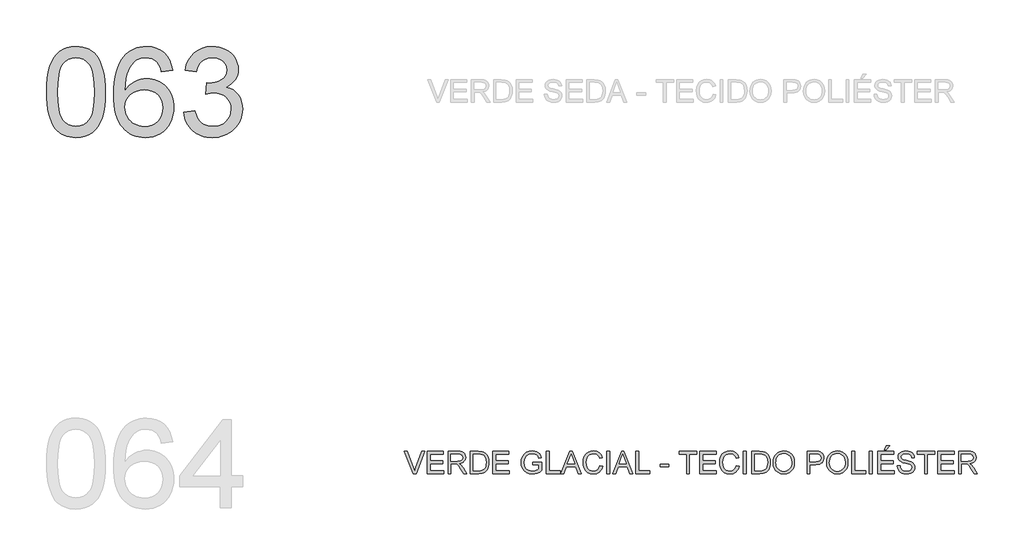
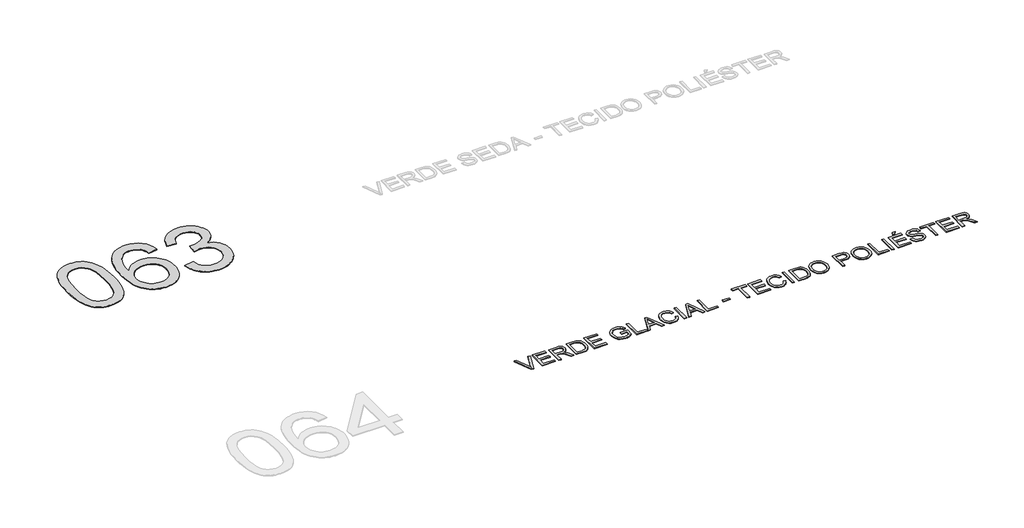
# One storey, part 13 of 39: 2 proxies.
"""IFC4 building model written with IfcOpenShell, lengths in millimetres."""

from ifc_helpers import new_model, si_unit, origin, origin_with_axes, place, context, project, spatial, polyline, outline, extrude, element, save

model = new_model("IFC4")

# Units and contexts
model_context = context("Model", 3, world=origin())
ifc_project = project(units=[si_unit("LENGTHUNIT", "METRE", prefix="MILLI")], contexts=[model_context])

# Site, building, storey
site = spatial("IfcSite", under=ifc_project)
building = spatial("IfcBuilding", under=site)
storey = spatial("IfcBuildingStorey", under=building, Name="Marelli - Linha PROFIT - Planta Baixa", Elevation=0.0)

# Proxies
placement = place(None, origin())
element("IfcBuildingElementProxy", 1, Name="1200mm Arial", ObjectType="1200mm Arial", at=placement, inside=storey, context=model_context, shape_type="SweptSolid", body=[
    extrude(outline(polyline([(-25275.30917, -89395.792664), (-25272.540858, -89294.4319773), (-25264.2359219, -89202.8385576), (-25250.3943618, -89121.0124048), (-25231.0161777, -89048.953519), (-25206.1841431, -88986.073289), (-25175.9810313, -88931.7831035), (-25140.4068423, -88886.0829627), (-25099.4615763, -88848.9728664), (-25053.0072773, -88820.2596767), (-25000.9059898, -88799.7502555), (-24943.1577136, -88787.4446027), (-24879.7624488, -88783.3427185), (-24832.1217304, -88785.7707396), (-24786.9090332, -88793.0548031), (-24744.1243571, -88805.194909), (-24703.7677023, -88822.1910572), (-24666.8139558, -88843.7581391), (-24634.2380052, -88869.6110463), (-24606.0398502, -88899.7497788), (-24582.2194911, -88934.1743365), (-24561.5813111, -88972.7467637), (-24542.929694, -89015.3291046), (-24511.586148, -89112.5235278), (-24499.611589, -89169.6831928), (-24491.0583327, -89235.9479371), (-24485.9263788, -89311.3177609), (-24484.2157275, -89395.792664), (-24486.9564484, -89496.5095573), (-24495.178611, -89587.6431245), (-24508.8822153, -89669.1933658), (-24528.0672614, -89741.1602811), (-24552.706158, -89804.0681023), (-24582.771314, -89858.4410612), (-24618.2627295, -89904.2791578), (-24659.1804044, -89941.5823921), (-24705.6898857, -89970.4887199), (-24757.9567202, -89991.1360968), (-24815.9809078, -90003.524523), (-24879.7624488, -90007.6539984), (-24922.4367602, -90005.8605737), (-24962.7566269, -90000.4802995), (-25000.7220488, -89991.5131759), (-25036.3330259, -89978.9592028), (-25069.5895583, -89962.8183803), (-25100.4916459, -89943.0907083), (-25129.0392887, -89919.7761868), (-25155.2324867, -89892.8748159), (-25183.3754594, -89850.2786794), (-25207.7660357, -89802.0999336), (-25228.4042156, -89748.3385785), (-25245.2899992, -89688.9946142), (-25258.4233864, -89624.0680406), (-25267.8043773, -89553.5588577), (-25273.4329718, -89477.4670655), (-25275.30917, -89395.792664)]), holes=[polyline([(-25124.6247047, -89395.4983584), (-25120.2101208, -89526.4919399), (-25106.966369, -89632.5247279), (-25097.0335551, -89676.1808245), (-25084.8934493, -89713.5967226), (-25070.5460515, -89744.7724225), (-25053.9913617, -89769.7079239), (-25016.614551, -89807.884878), (-24975.1174619, -89835.1541309), (-24929.5000945, -89851.5156826), (-24879.7624488, -89856.9695332), (-24830.024803, -89851.4972885), (-24784.4074356, -89835.0805545), (-24742.9103465, -89807.7193311), (-24705.5335358, -89769.4136183), (-24688.9788461, -89744.418336), (-24674.6314482, -89713.2104465), (-24662.4913424, -89675.7899498), (-24652.5585285, -89632.1568459), (-24639.3147767, -89526.2528166), (-24634.9001928, -89395.4983584), (-24639.1676239, -89267.9720648), (-24651.9699173, -89163.8062779), (-24661.5716374, -89120.4835744), (-24673.3070731, -89083.0009976), (-24687.1762243, -89051.3585475), (-24703.1790911, -89025.5562241), (-24739.9305024, -88985.5122689), (-24781.905838, -88956.9094438), (-24829.105098, -88939.7477487), (-24881.5282823, -88934.0271837), (-24931.0084107, -88939.067167), (-24975.8532259, -88954.187117), (-25016.062728, -88979.3870337), (-25051.6369169, -89014.666917), (-25068.7434297, -89043.2145599), (-25083.5690741, -89077.2068562), (-25096.1138501, -89116.6438061), (-25106.3777578, -89161.5254095), (-25120.062968, -89267.6225769), (-25124.6247047, -89395.4983584)])]), origin_with_axes(), (0.0, 0.0, 1.0), 10.0),
    extrude(outline(polyline([(-23580.1089362, -89103.5472071), (-23730.7934014, -89122.3827652), (-23741.8666495, -89082.0812927), (-23755.0736131, -89047.7027202), (-23770.4142923, -89019.2470479), (-23787.8886871, -88996.7142757), (-23820.2806967, -88969.2886729), (-23856.2411618, -88949.6989567), (-23895.7700822, -88937.9451269), (-23938.8674579, -88934.0271837), (-23974.4048586, -88936.3080521), (-24008.9121898, -88943.1506572), (-24042.3894513, -88954.554999), (-24074.8366433, -88970.5210776), (-24104.4419469, -88996.6315022), (-24131.4536824, -89028.1681863), (-24155.8718498, -89065.1311297), (-24177.6964492, -89107.5203326), (-24195.7686522, -89158.1316981), (-24208.9296306, -89219.7611293), (-24217.1793843, -89292.4086263), (-24220.5179134, -89376.0741891), (-24191.7955266, -89338.2099347), (-24160.0749016, -89305.5512106), (-24125.3560383, -89278.0980167), (-24087.6389367, -89255.8503531), (-24047.9352724, -89238.6610669), (-24007.2567208, -89226.3830053), (-23965.6032819, -89219.0161683), (-23922.9749557, -89216.560556), (-23886.0763916, -89218.2390176), (-23850.575779, -89223.2744024), (-23816.4731181, -89231.6667104), (-23783.7684087, -89243.4159416), (-23752.4616509, -89258.5220961), (-23722.5528447, -89276.9851737), (-23694.0419901, -89298.8051745), (-23666.9290871, -89323.9820986), (-23642.1660303, -89351.81697), (-23620.7047144, -89381.6108131), (-23602.5451394, -89413.3636278), (-23587.6873053, -89447.0754142), (-23576.1312121, -89482.7461721), (-23567.8768599, -89520.3759017), (-23562.9242485, -89559.9646029), (-23561.273378, -89601.5122757), (-23564.3819809, -89656.4462547), (-23573.7077895, -89709.4120649), (-23589.2508038, -89760.4097065), (-23611.0110238, -89809.4391794), (-23638.2158973, -89854.6702707), (-23670.0928722, -89894.2727675), (-23706.6419484, -89928.2466698), (-23747.863126, -89956.5919775), (-23792.8734881, -89978.9316116), (-23840.790118, -89994.8884932), (-23891.6130156, -90004.4626221), (-23945.342181, -90007.6539984), (-23991.3435252, -90005.5386769), (-24035.1697672, -89999.1927125), (-24076.8209068, -89988.6161052), (-24116.2969442, -89973.8088549), (-24153.5978792, -89954.7709616), (-24188.723712, -89931.5024254), (-24221.6744424, -89904.0032463), (-24252.4500706, -89872.2734242), (-24280.2826428, -89835.6875598), (-24304.4042053, -89793.6202536), (-24324.8147583, -89746.0715057), (-24341.5143016, -89693.0413161), (-24354.5028353, -89634.5296848), (-24363.7803594, -89570.5366117), (-24369.3468738, -89501.062097), (-24371.2023786, -89426.1061404), (-24369.1422394, -89342.1784618), (-24362.9618219, -89264.1828803), (-24352.6611261, -89192.1193959), (-24338.2401519, -89125.9880088), (-24319.6988993, -89065.7887188), (-24297.0373684, -89011.521526), (-24270.2555591, -88963.1864303), (-24239.3534716, -88920.7834319), (-24209.3388993, -88888.5707647), (-24176.8319265, -88860.6531198), (-24141.8325532, -88837.0304971), (-24104.3407793, -88817.7028968), (-24064.356605, -88802.6703188), (-24021.8800301, -88791.9327631), (-23976.9110547, -88785.4902296), (-23929.4496788, -88783.3427185), (-23860.0487404, -88788.6586133), (-23797.2328897, -88804.6062978), (-23741.0021268, -88831.1857719), (-23691.3564515, -88868.3970358), (-23649.6386333, -88914.9892904), (-23617.1914413, -88969.7117372), (-23594.0148756, -89032.5643761), (-23580.1089362, -89103.5472071)]), holes=[polyline([(-24220.5179134, -89599.157831), (-24218.3382126, -89632.9202011), (-24211.7991101, -89665.9284131), (-24200.900606, -89698.182467), (-24185.6427003, -89729.6823629), (-24166.7703539, -89758.9473756), (-24145.028528, -89784.4967801), (-24120.4172225, -89806.3305766), (-24092.9364375, -89824.4487648), (-24062.7609168, -89838.676601), (-24030.0654045, -89848.8393411), (-23994.8499005, -89854.9369852), (-23957.1144049, -89856.9695332), (-23904.7372058, -89852.7572843), (-23857.6759016, -89840.1205378), (-23815.9304922, -89819.0592936), (-23779.5009776, -89789.5735517), (-23749.9508563, -89752.8589286), (-23728.8436268, -89710.1110407), (-23716.1792892, -89661.3298882), (-23711.9578433, -89606.5154709), (-23716.1241069, -89553.8439662), (-23728.6228976, -89507.0769676), (-23749.4542156, -89466.214475), (-23778.6180608, -89431.2564884), (-23815.15794, -89403.2514715), (-23858.1173599, -89383.247888), (-23907.4963208, -89371.2457379), (-23963.2948224, -89367.2450212), (-24014.9730456, -89371.2457379), (-24062.5861729, -89383.247888), (-24106.134204, -89403.2514715), (-24145.6171392, -89431.2564884), (-24178.3862279, -89465.7546225), (-24201.7927198, -89505.2375576), (-24215.836615, -89549.7052938), (-24220.5179134, -89599.157831)])]), origin_with_axes(), (0.0, 0.0, 1.0), 10.0),
    extrude(outline(polyline([(-23429.424471, -89668.6139517), (-23278.7400057, -89649.7783935), (-23263.8315879, -89700.9691731), (-23245.0052268, -89744.4712191), (-23222.2609224, -89780.2845313), (-23195.5986748, -89808.4091098), (-23164.4114787, -89829.6542951), (-23128.0923287, -89844.8294274), (-23086.6412249, -89853.9345067), (-23040.0581673, -89856.9695332), (-22985.4644792, -89852.7940725), (-22936.756903, -89840.2676906), (-22893.9354388, -89819.3903874), (-22857.0000865, -89790.1621629), (-22827.2568272, -89754.7719149), (-22806.0116419, -89715.4085415), (-22793.2645308, -89672.0720424), (-22789.0154938, -89624.7624178), (-22793.2277426, -89579.7060705), (-22805.8644891, -89538.7148192), (-22826.9257334, -89501.7886639), (-22856.4114753, -89468.9276047), (-22892.3903344, -89441.9526574), (-22932.9309303, -89422.6848379), (-22978.0332629, -89411.1241462), (-23027.6973322, -89407.2705823), (-23075.3012624, -89411.3908606), (-23133.3530413, -89423.7516957), (-23116.5776223, -89273.0672304), (-23092.4445634, -89274.833064), (-23046.1098261, -89272.1291314), (-23002.1663218, -89264.0173334), (-22960.6140504, -89250.49767), (-22921.453012, -89231.5701414), (-22888.2332679, -89207.0324123), (-22864.5048792, -89176.6821477), (-22850.267846, -89140.5193476), (-22845.5221682, -89098.5440119), (-22848.9618649, -89064.4689421), (-22859.2809548, -89033.465687), (-22876.4794381, -89005.5342465), (-22900.5573147, -88980.6746207), (-22930.0614507, -88960.266367), (-22963.5387123, -88945.6890429), (-23000.9890994, -88936.9426485), (-23042.412612, -88934.0271837), (-23083.7257601, -88936.9702397), (-23121.4336646, -88945.7994075), (-23155.5363256, -88960.5146873), (-23186.033743, -88981.1160791), (-23212.1717587, -89007.6035827), (-23233.1962147, -89039.9771983), (-23249.107111, -89078.2369258), (-23259.9044476, -89122.3827652), (-23410.5889128, -89103.5472071), (-23392.728242, -89031.6078829), (-23366.2223442, -88968.2402092), (-23331.0712196, -88913.4441861), (-23287.274868, -88867.2198134), (-23236.2128471, -88830.5235844), (-23179.2647142, -88804.3119922), (-23116.4304695, -88788.5850369), (-23047.7101128, -88783.3427185), (-22999.3796157, -88785.9270895), (-22952.980499, -88793.6802025), (-22908.5127628, -88806.6020576), (-22865.9764072, -88824.6926547), (-22826.852157, -88847.2622151), (-22792.6207373, -88873.6209601), (-22763.2821482, -88903.7688896), (-22738.8363896, -88937.7060036), (-22719.5869642, -88974.0803359), (-22705.8373747, -89011.5399201), (-22697.5876209, -89050.0847561), (-22694.837703, -89089.7148441), (-22697.4496652, -89126.9812902), (-22705.2855517, -89162.5554791), (-22718.3453625, -89196.4374109), (-22736.6290977, -89228.6270854), (-22760.0263925, -89258.3703447), (-22788.4268826, -89284.9130307), (-22821.8305677, -89308.2551433), (-22860.237448, -89328.3966825), (-22810.0215557, -89344.1052437), (-22765.9125045, -89366.5092572), (-22727.9102944, -89395.608723), (-22696.0149254, -89431.4036412), (-22670.7782205, -89473.0110948), (-22652.7520028, -89519.5481672), (-22641.9362721, -89571.0148583), (-22638.3310285, -89627.4111682), (-22640.1336503, -89666.3882656), (-22645.5415156, -89703.8570468), (-22654.5546245, -89739.8175118), (-22667.172977, -89774.2696607), (-22683.396573, -89807.2134933), (-22703.2254125, -89838.6490098), (-22726.6594956, -89868.5762101), (-22753.6988222, -89896.9950943), (-22783.4926653, -89922.9307749), (-22815.1902977, -89945.4083648), (-22848.7917195, -89964.427864), (-22884.2969305, -89979.9892724), (-22921.7059309, -89992.09259), (-22961.0187206, -90000.7378169), (-23002.2352996, -90005.924953), (-23045.355668, -90007.6539984), (-23121.5808174, -90001.7494924), (-23157.1550063, -89994.3688599), (-23191.0369381, -89984.0359743), (-23223.2266127, -89970.7508358), (-23253.7240301, -89954.5134442), (-23282.5291903, -89935.3237996), (-23309.6420933, -89913.1819021), (-23334.4971206, -89888.6947568), (-23356.5286536, -89862.469369), (-23375.7366923, -89834.5057389), (-23392.1212367, -89804.8038663), (-23405.6822867, -89773.3637513), (-23416.4198424, -89740.1853938), (-23429.424471, -89668.6139517)])), origin_with_axes(), (0.0, 0.0, 1.0), 10.0),
])
element("IfcBuildingElementProxy", 2, Name="300mm Arial", ObjectType="300mm Arial", at=placement, inside=storey, context=model_context, shape_type="SweptSolid", body=[
    extrude(outline(polyline([(-20339.7409819, -94530.5663201), (-20459.6705124, -94229.1973896), (-20419.3506457, -94229.1973896), (-20339.0787944, -94446.3213432), (-20322.8184102, -94495.2496485), (-20306.7787552, -94446.3213432), (-20226.2861746, -94229.1973896), (-20185.966308, -94229.1973896), (-20300.8190669, -94530.5663201), (-20339.7409819, -94530.5663201)])), origin_with_axes(), (0.0, 0.0, 1.0), 10.0),
    extrude(outline(polyline([(-20150.943942, -94530.5663201), (-20150.943942, -94229.1973896), (-19934.3350233, -94229.1973896), (-19934.3350233, -94266.8685059), (-20113.2728257, -94266.8685059), (-20113.2728257, -94356.3374072), (-19943.7528023, -94356.3374072), (-19943.7528023, -94394.0085235), (-20113.2728257, -94394.0085235), (-20113.2728257, -94492.8952038), (-19929.6261337, -94492.8952038), (-19929.6261337, -94530.5663201), (-20150.943942, -94530.5663201)])), origin_with_axes(), (0.0, 0.0, 1.0), 10.0),
    extrude(outline(polyline([(-19873.1194593, -94530.5663201), (-19873.1194593, -94229.1973896), (-19743.257115, -94229.1973896), (-19708.3543107, -94231.2299376), (-19682.961256, -94237.3275817), (-19664.4016093, -94248.5847708), (-19649.9990292, -94266.0959537), (-19640.7559941, -94287.8101885), (-19637.6749824, -94311.6765329), (-19642.779345, -94341.3646099), (-19658.0924331, -94365.9759154), (-19669.6922122, -94376.0052983), (-19684.074099, -94384.0205273), (-19721.1841953, -94394.0085235), (-19699.7734631, -94410.1217548), (-19669.2392575, -94448.8965171), (-19618.986577, -94530.5663201), (-19662.7645344, -94530.5663201), (-19701.9807551, -94468.0999573), (-19730.3076687, -94426.750021), (-19750.2100847, -94407.2154871), (-19768.1259378, -94400.0417882), (-19789.9781284, -94398.717413), (-19835.448343, -94398.717413), (-19835.448343, -94530.5663201), (-19873.1194593, -94530.5663201)]), holes=[polyline([(-19835.448343, -94361.0462967), (-19751.1297897, -94361.0462967), (-19726.9139573, -94359.7127245), (-19708.1243844, -94355.7120078), (-19693.9793217, -94348.7774322), (-19683.6970199, -94338.6422832), (-19677.433829, -94326.3826157), (-19675.3460987, -94313.0744845), (-19679.3284213, -94294.6987789), (-19691.275389, -94279.8915286), (-19711.8307955, -94270.1242616), (-19741.6384342, -94266.8685059), (-19835.448343, -94266.8685059), (-19835.448343, -94361.0462967)])]), origin_with_axes(), (0.0, 0.0, 1.0), 10.0),
    extrude(outline(polyline([(-19571.7505288, -94530.5663201), (-19571.7505288, -94229.1973896), (-19467.787077, -94229.1973896), (-19414.0027293, -94233.5383972), (-19389.980035, -94241.9077126), (-19369.7097371, -94255.0962821), (-19348.869222, -94278.0521186), (-19334.0251835, -94306.5997614), (-19325.1408333, -94340.1873876), (-19322.1793833, -94378.2631741), (-19324.1843402, -94410.6091985), (-19330.1992108, -94439.0740679), (-19339.3594725, -94463.3082943), (-19350.8006025, -94482.9623899), (-19363.9707779, -94498.477813), (-19378.3181758, -94510.2960221), (-19394.7900921, -94519.0608107), (-19414.3338231, -94525.4159721), (-19462.7838818, -94530.5663201), (-19571.7505288, -94530.5663201)]), holes=[polyline([(-19534.0794125, -94492.8952038), (-19467.419195, -94492.8952038), (-19439.8464394, -94491.5340404), (-19418.932348, -94487.4505502), (-19403.1502104, -94480.8838566), (-19390.9733164, -94472.0730828), (-19377.8859144, -94455.7667134), (-19368.0542681, -94434.6594839), (-19361.9014417, -94408.6594239), (-19359.8504996, -94377.6745629), (-19363.8696104, -94336.6189322), (-19375.9269428, -94306.3054558), (-19393.7416284, -94285.4833349), (-19415.0327989, -94272.9017706), (-19436.7010484, -94268.3768221), (-19468.4492646, -94266.8685059), (-19534.0794125, -94266.8685059), (-19534.0794125, -94492.8952038)])]), origin_with_axes(), (0.0, 0.0, 1.0), 10.0),
    extrude(outline(polyline([(-19270.3815984, -94530.5663201), (-19270.3815984, -94229.1973896), (-19053.7726796, -94229.1973896), (-19053.7726796, -94266.8685059), (-19232.7104821, -94266.8685059), (-19232.7104821, -94356.3374072), (-19063.1904587, -94356.3374072), (-19063.1904587, -94394.0085235), (-19232.7104821, -94394.0085235), (-19232.7104821, -94492.8952038), (-19049.0637901, -94492.8952038), (-19049.0637901, -94530.5663201), (-19270.3815984, -94530.5663201)])), origin_with_axes(), (0.0, 0.0, 1.0), 10.0),
    extrude(outline(polyline([(-18733.568191, -94412.8440816), (-18733.568191, -94375.1729653), (-18611.137063, -94375.1729653), (-18611.137063, -94487.8184322), (-18640.8895194, -94508.5117945), (-18671.5800748, -94523.355833), (-18703.135153, -94532.2953654), (-18735.4811774, -94535.2752096), (-18777.7416216, -94530.5387289), (-18815.9369697, -94516.3292869), (-18847.6667918, -94493.1435241), (-18870.5306578, -94461.4780814), (-18884.3538238, -94423.4942654), (-18888.9615458, -94381.3533828), (-18884.3722179, -94338.9089976), (-18870.6042342, -94299.4260625), (-18848.2278119, -94266.3074859), (-18817.8131679, -94242.9561762), (-18780.767451, -94229.1054191), (-18738.4978097, -94224.4885001), (-18707.4669634, -94227.1648416), (-18679.5631141, -94235.1938661), (-18656.0646517, -94247.9961596), (-18638.2499661, -94264.9923077), (-18625.0705936, -94287.0008481), (-18615.4780706, -94314.8403181), (-18650.2061309, -94324.6259792), (-18657.9592439, -94304.7695485), (-18667.3862201, -94289.7875542), (-18679.8574197, -94278.493577), (-18696.7432033, -94269.7011973), (-18716.8755455, -94264.0450116), (-18739.0864209, -94262.1596164), (-18765.0864809, -94264.1921644), (-18787.3157505, -94270.2898085), (-18805.6914562, -94279.6891935), (-18820.1308245, -94291.6269642), (-18839.5182056, -94320.6528536), (-18848.3473735, -94349.0901318), (-18851.2904295, -94379.8082784), (-18847.7495653, -94415.8331228), (-18837.1269726, -94445.4752146), (-18819.7445484, -94468.5230216), (-18795.9241892, -94484.7650117), (-18768.047931, -94494.3943229), (-18738.4978097, -94497.6040933), (-18712.4057792, -94495.1852692), (-18686.9575422, -94487.9287968), (-18664.8570314, -94477.9316036), (-18648.8081793, -94467.2906169), (-18648.8081793, -94412.8440816), (-18733.568191, -94412.8440816)])), origin_with_axes(), (0.0, 0.0, 1.0), 10.0),
    extrude(outline(polyline([(-18549.921499, -94530.5663201), (-18549.921499, -94229.1973896), (-18512.2503827, -94229.1973896), (-18512.2503827, -94492.8952038), (-18361.5659175, -94492.8952038), (-18361.5659175, -94530.5663201), (-18549.921499, -94530.5663201)])), origin_with_axes(), (0.0, 0.0, 1.0), 10.0),
    extrude(outline(polyline([(-18354.281854, -94530.5663201), (-18233.9844416, -94229.1973896), (-18201.9051316, -94229.1973896), (-18081.6077192, -94530.5663201), (-18121.412551, -94530.5663201), (-18155.9198822, -94436.3885293), (-18280.0432674, -94436.3885293), (-18314.4770221, -94530.5663201), (-18354.281854, -94530.5663201)]), holes=[polyline([(-18266.2109043, -94398.717413), (-18169.6786688, -94398.717413), (-18196.82836, -94324.6259792), (-18217.9447866, -94266.8685059), (-18236.7067683, -94318.1512561), (-18266.2109043, -94398.717413)])]), origin_with_axes(), (0.0, 0.0, 1.0), 10.0),
    extrude(outline(polyline([(-17829.4613997, -94423.4390831), (-17791.7902834, -94433.1511677), (-17799.2444923, -94456.5783531), (-17809.1727076, -94477.0486868), (-17821.5749294, -94494.5621691), (-17836.4511576, -94509.1187997), (-17853.4656998, -94520.5622291), (-17872.2828639, -94528.7361071), (-17892.9026497, -94533.640434), (-17915.3250573, -94535.2752096), (-17959.0202413, -94530.3271968), (-17993.7207105, -94515.4831583), (-18020.3185788, -94491.2581289), (-18039.7059599, -94458.1671434), (-18051.5425631, -94419.2636224), (-18055.4880975, -94377.6009865), (-18051.0275283, -94333.6574821), (-18037.6458207, -94295.7104543), (-18016.0419506, -94264.9647166), (-17986.9148936, -94242.6250824), (-17952.3707742, -94229.0226457), (-17914.5157169, -94224.4885001), (-17873.2117659, -94230.3562179), (-17855.2430297, -94237.6908652), (-17839.0631197, -94247.9593714), (-17824.9387504, -94260.8904235), (-17813.1366361, -94276.2127086), (-17796.4991729, -94314.0309777), (-17834.1702892, -94323.0072984), (-17847.2301, -94295.5357104), (-17865.0723768, -94276.6909552), (-17887.9178487, -94265.7924511), (-17915.9872449, -94262.1596164), (-17948.3424664, -94266.1879242), (-17974.9219406, -94278.2728478), (-17995.0910709, -94297.1451941), (-18008.2152611, -94321.5357704), (-18015.4165512, -94349.1085259), (-18017.8169812, -94377.5274101), (-18014.9750928, -94412.3290468), (-18006.4494275, -94442.421794), (-17991.9180887, -94466.6560205), (-17971.0591796, -94483.8820949), (-17946.052401, -94494.1735937), (-17919.0774537, -94497.6040933), (-17887.6327401, -94492.931992), (-17861.430345, -94478.9156879), (-17841.6474907, -94455.702334), (-17829.4613997, -94423.4390831)])), origin_with_axes(), (0.0, 0.0, 1.0), 10.0),
    extrude(outline(polyline([(-17735.2836089, -94530.5663201), (-17735.2836089, -94229.1973896), (-17697.6124926, -94229.1973896), (-17697.6124926, -94530.5663201), (-17735.2836089, -94530.5663201)])), origin_with_axes(), (0.0, 0.0, 1.0), 10.0),
    extrude(outline(polyline([(-17657.3662023, -94530.5663201), (-17537.0687899, -94229.1973896), (-17504.9894799, -94229.1973896), (-17384.6920675, -94530.5663201), (-17424.4968994, -94530.5663201), (-17459.0042305, -94436.3885293), (-17583.1276157, -94436.3885293), (-17617.5613704, -94530.5663201), (-17657.3662023, -94530.5663201)]), holes=[polyline([(-17569.2952527, -94398.717413), (-17472.7630171, -94398.717413), (-17499.9127084, -94324.6259792), (-17521.0291349, -94266.8685059), (-17539.7911167, -94318.1512561), (-17569.2952527, -94398.717413)])]), origin_with_axes(), (0.0, 0.0, 1.0), 10.0),
    extrude(outline(polyline([(-17344.4457772, -94530.5663201), (-17344.4457772, -94229.1973896), (-17306.7746609, -94229.1973896), (-17306.7746609, -94492.8952038), (-17156.0901957, -94492.8952038), (-17156.0901957, -94530.5663201), (-17344.4457772, -94530.5663201)])), origin_with_axes(), (0.0, 0.0, 1.0), 10.0),
    extrude(outline(polyline([(-17019.5323991, -94441.0974188), (-17019.5323991, -94403.4263025), (-16901.8101606, -94403.4263025), (-16901.8101606, -94441.0974188), (-17019.5323991, -94441.0974188)])), origin_with_axes(), (0.0, 0.0, 1.0), 10.0),
    extrude(outline(polyline([(-16661.6567942, -94530.5663201), (-16661.6567942, -94266.8685059), (-16760.5434745, -94266.8685059), (-16760.5434745, -94229.1973896), (-16525.0989976, -94229.1973896), (-16525.0989976, -94266.8685059), (-16623.9856779, -94266.8685059), (-16623.9856779, -94530.5663201), (-16661.6567942, -94530.5663201)])), origin_with_axes(), (0.0, 0.0, 1.0), 10.0),
    extrude(outline(polyline([(-16482.7189917, -94530.5663201), (-16482.7189917, -94229.1973896), (-16266.110073, -94229.1973896), (-16266.110073, -94266.8685059), (-16445.0478754, -94266.8685059), (-16445.0478754, -94356.3374072), (-16275.527852, -94356.3374072), (-16275.527852, -94394.0085235), (-16445.0478754, -94394.0085235), (-16445.0478754, -94492.8952038), (-16261.4011834, -94492.8952038), (-16261.4011834, -94530.5663201), (-16482.7189917, -94530.5663201)])), origin_with_axes(), (0.0, 0.0, 1.0), 10.0),
    extrude(outline(polyline([(-15992.9944797, -94423.4390831), (-15955.3233634, -94433.1511677), (-15962.7775724, -94456.5783531), (-15972.7057877, -94477.0486868), (-15985.1080095, -94494.5621691), (-15999.9842376, -94509.1187997), (-16016.9987799, -94520.5622291), (-16035.815944, -94528.7361071), (-16056.4357298, -94533.640434), (-16078.8581374, -94535.2752096), (-16122.5533214, -94530.3271968), (-16157.2537906, -94515.4831583), (-16183.8516588, -94491.2581289), (-16203.23904, -94458.1671434), (-16215.0756432, -94419.2636224), (-16219.0211776, -94377.6009865), (-16214.5606084, -94333.6574821), (-16201.1789008, -94295.7104543), (-16179.5750306, -94264.9647166), (-16150.4479737, -94242.6250824), (-16115.9038543, -94229.0226457), (-16078.048797, -94224.4885001), (-16036.744846, -94230.3562179), (-16018.7761098, -94237.6908652), (-16002.5961998, -94247.9593714), (-15988.4718305, -94260.8904235), (-15976.6697162, -94276.2127086), (-15960.032253, -94314.0309777), (-15997.7033693, -94323.0072984), (-16010.7631801, -94295.5357104), (-16028.6054569, -94276.6909552), (-16051.4509288, -94265.7924511), (-16079.520325, -94262.1596164), (-16111.8755465, -94266.1879242), (-16138.4550206, -94278.2728478), (-16158.624151, -94297.1451941), (-16171.7483412, -94321.5357704), (-16178.9496312, -94349.1085259), (-16181.3500613, -94377.5274101), (-16178.5081729, -94412.3290468), (-16169.9825076, -94442.421794), (-16155.4511688, -94466.6560205), (-16134.5922597, -94483.8820949), (-16109.5854811, -94494.1735937), (-16082.6105338, -94497.6040933), (-16051.1658202, -94492.931992), (-16024.9634251, -94478.9156879), (-16005.1805708, -94455.702334), (-15992.9944797, -94423.4390831)])), origin_with_axes(), (0.0, 0.0, 1.0), 10.0),
    extrude(outline(polyline([(-15898.816689, -94530.5663201), (-15898.816689, -94229.1973896), (-15861.1455727, -94229.1973896), (-15861.1455727, -94530.5663201), (-15898.816689, -94530.5663201)])), origin_with_axes(), (0.0, 0.0, 1.0), 10.0),
    extrude(outline(polyline([(-15785.8033401, -94530.5663201), (-15785.8033401, -94229.1973896), (-15681.8398882, -94229.1973896), (-15628.0555405, -94233.5383972), (-15604.0328462, -94241.9077126), (-15583.7625483, -94255.0962821), (-15562.9220333, -94278.0521186), (-15548.0779948, -94306.5997614), (-15539.1936446, -94340.1873876), (-15536.2321945, -94378.2631741), (-15538.2371514, -94410.6091985), (-15544.252022, -94439.0740679), (-15553.4122837, -94463.3082943), (-15564.8534138, -94482.9623899), (-15578.0235892, -94498.477813), (-15592.370987, -94510.2960221), (-15608.8429033, -94519.0608107), (-15628.3866343, -94525.4159721), (-15676.8366931, -94530.5663201), (-15785.8033401, -94530.5663201)]), holes=[polyline([(-15748.1322237, -94492.8952038), (-15681.4720062, -94492.8952038), (-15653.8992507, -94491.5340404), (-15632.9851593, -94487.4505502), (-15617.2030217, -94480.8838566), (-15605.0261276, -94472.0730828), (-15591.9387256, -94455.7667134), (-15582.1070793, -94434.6594839), (-15575.954253, -94408.6594239), (-15573.9033108, -94377.6745629), (-15577.9224216, -94336.6189322), (-15589.979754, -94306.3054558), (-15607.7944396, -94285.4833349), (-15629.0856101, -94272.9017706), (-15650.7538596, -94268.3768221), (-15682.5020758, -94266.8685059), (-15748.1322237, -94266.8685059), (-15748.1322237, -94492.8952038)])]), origin_with_axes(), (0.0, 0.0, 1.0), 10.0),
    extrude(outline(polyline([(-15498.5610782, -94383.8549804), (-15496.0502836, -94348.5061192), (-15488.5178998, -94317.213157), (-15475.9639267, -94289.9760937), (-15458.3883643, -94266.7949295), (-15436.844275, -94248.2858666), (-15412.3847208, -94235.0651074), (-15385.0097019, -94227.1326519), (-15354.7192181, -94224.4885001), (-15315.1902977, -94229.454907), (-15279.7448675, -94244.3541278), (-15250.3143079, -94268.1376988), (-15228.8299994, -94299.7571563), (-15215.6966121, -94337.68579), (-15211.3188164, -94380.3968896), (-15215.9265384, -94423.6782064), (-15229.7497043, -94462.140269), (-15252.0249592, -94493.8149087), (-15281.9889477, -94516.733957), (-15317.1308752, -94530.6398965), (-15354.9399473, -94535.2752096), (-15395.075873, -94530.1524528), (-15430.7236383, -94514.7841825), (-15460.0806215, -94490.5591531), (-15481.3442008, -94458.8661192), (-15494.2568589, -94422.3998164), (-15498.5610782, -94383.8549804)]), holes=[polyline([(-15460.8899619, -94384.2228624), (-15459.006866, -94409.1974513), (-15453.3575781, -94431.3669401), (-15443.9420982, -94450.7313286), (-15430.7604265, -94467.2906169), (-15414.7368664, -94480.5527628), (-15396.7957213, -94490.0257242), (-15376.9369914, -94495.709501), (-15355.1606765, -94497.6040933), (-15333.0118811, -94495.6911069), (-15312.9186264, -94489.9521478), (-15294.8809123, -94480.3872159), (-15278.8987389, -94466.9963113), (-15265.8136362, -94450.0875351), (-15256.4671342, -94429.9689885), (-15250.8592331, -94406.6406715), (-15248.9899327, -94380.102584), (-15252.190506, -94346.7540812), (-15261.7922261, -94317.9305269), (-15277.5467726, -94294.358488), (-15299.205825, -94276.7645316), (-15325.3346437, -94265.8108452), (-15354.4984889, -94262.1596164), (-15375.5183464, -94263.9185522), (-15395.0206907, -94269.1953595), (-15413.0055217, -94277.9900385), (-15429.4728395, -94290.302589), (-15443.2178306, -94306.7262208), (-15453.0356813, -94327.8541437), (-15458.9263918, -94353.6863575), (-15460.8899619, -94384.2228624)])]), origin_with_axes(), (0.0, 0.0, 1.0), 10.0),
    extrude(outline(polyline([(-15041.798793, -94530.5663201), (-15041.798793, -94229.1973896), (-14930.1098193, -94229.1973896), (-14885.0810631, -94232.0668692), (-14865.0039032, -94237.4287493), (-14848.4768045, -94246.1567496), (-14835.1686734, -94258.6463433), (-14824.7484159, -94275.2930036), (-14818.0161753, -94294.9287051), (-14815.7720952, -94316.3854225), (-14817.2873091, -94334.8852883), (-14821.832951, -94351.9044291), (-14829.4090209, -94367.4428449), (-14840.0155187, -94381.5005356), (-14854.5767479, -94393.1531978), (-14874.0170121, -94401.476528), (-14898.3363112, -94406.470526), (-14927.5346453, -94408.1351921), (-15004.1276767, -94408.1351921), (-15004.1276767, -94530.5663201), (-15041.798793, -94530.5663201)]), holes=[polyline([(-15004.1276767, -94370.4640758), (-14925.3273533, -94370.4640758), (-14891.9236682, -94367.005985), (-14869.8507485, -94356.6317127), (-14857.5450957, -94339.9850525), (-14853.4432115, -94317.7097977), (-14855.8620356, -94300.7872259), (-14863.118508, -94286.5134045), (-14874.3113177, -94275.7712502), (-14888.5391538, -94269.4436799), (-14926.2102701, -94266.8685059), (-15004.1276767, -94266.8685059), (-15004.1276767, -94370.4640758)])]), origin_with_axes(), (0.0, 0.0, 1.0), 10.0),
    extrude(outline(polyline([(-14778.1009789, -94383.8549804), (-14775.5901842, -94348.5061192), (-14768.0578004, -94317.213157), (-14755.5038273, -94289.9760937), (-14737.928265, -94266.7949295), (-14716.3841756, -94248.2858666), (-14691.9246215, -94235.0651074), (-14664.5496025, -94227.1326519), (-14634.2591188, -94224.4885001), (-14594.7301984, -94229.454907), (-14559.2847681, -94244.3541278), (-14529.8542085, -94268.1376988), (-14508.3699, -94299.7571563), (-14495.2365128, -94337.68579), (-14490.858717, -94380.3968896), (-14495.466439, -94423.6782064), (-14509.289605, -94462.140269), (-14531.5648598, -94493.8149087), (-14561.5288483, -94516.733957), (-14596.6707759, -94530.6398965), (-14634.4798479, -94535.2752096), (-14674.6157736, -94530.1524528), (-14710.263539, -94514.7841825), (-14739.6205222, -94490.5591531), (-14760.8841015, -94458.8661192), (-14773.7967595, -94422.3998164), (-14778.1009789, -94383.8549804)]), holes=[polyline([(-14740.4298626, -94384.2228624), (-14738.5467666, -94409.1974513), (-14732.8974787, -94431.3669401), (-14723.4819989, -94450.7313286), (-14710.3003272, -94467.2906169), (-14694.276767, -94480.5527628), (-14676.3356219, -94490.0257242), (-14656.476892, -94495.709501), (-14634.7005771, -94497.6040933), (-14612.5517818, -94495.6911069), (-14592.458527, -94489.9521478), (-14574.420813, -94480.3872159), (-14558.4386395, -94466.9963113), (-14545.3535368, -94450.0875351), (-14536.0070349, -94429.9689885), (-14530.3991337, -94406.6406715), (-14528.5298333, -94380.102584), (-14531.7304067, -94346.7540812), (-14541.3321268, -94317.9305269), (-14557.0866732, -94294.358488), (-14578.7457257, -94276.7645316), (-14604.8745444, -94265.8108452), (-14634.0383896, -94262.1596164), (-14655.0582471, -94263.9185522), (-14674.5605913, -94269.1953595), (-14692.5454224, -94277.9900385), (-14709.0127402, -94290.302589), (-14722.7577312, -94306.7262208), (-14732.575582, -94327.8541437), (-14738.4662924, -94353.6863575), (-14740.4298626, -94384.2228624)])]), origin_with_axes(), (0.0, 0.0, 1.0), 10.0),
    extrude(outline(polyline([(-14439.0609321, -94530.5663201), (-14439.0609321, -94229.1973896), (-14401.3898158, -94229.1973896), (-14401.3898158, -94492.8952038), (-14250.7053506, -94492.8952038), (-14250.7053506, -94530.5663201), (-14439.0609321, -94530.5663201)])), origin_with_axes(), (0.0, 0.0, 1.0), 10.0),
    extrude(outline(polyline([(-14203.6164552, -94530.5663201), (-14203.6164552, -94229.1973896), (-14165.9453389, -94229.1973896), (-14165.9453389, -94530.5663201), (-14203.6164552, -94530.5663201)])), origin_with_axes(), (0.0, 0.0, 1.0), 10.0),
    extrude(outline(polyline([(-14090.6031063, -94530.5663201), (-14090.6031063, -94229.1973896), (-13873.9941875, -94229.1973896), (-13873.9941875, -94266.8685059), (-14052.93199, -94266.8685059), (-14052.93199, -94356.3374072), (-13883.4119666, -94356.3374072), (-13883.4119666, -94394.0085235), (-14052.93199, -94394.0085235), (-14052.93199, -94492.8952038), (-13869.285298, -94492.8952038), (-13869.285298, -94530.5663201), (-14090.6031063, -94530.5663201)])), origin_with_axes(), (0.0, 0.0, 1.0), 10.0),
    extrude(outline(polyline([(-14005.8430946, -94210.3618315), (-13977.5897574, -94153.855157), (-13930.500862, -94153.855157), (-13977.5897574, -94210.3618315), (-14005.8430946, -94210.3618315)])), origin_with_axes(), (0.0, 0.0, 1.0), 10.0),
    extrude(outline(polyline([(-13826.9052921, -94426.9707502), (-13789.2341758, -94426.9707502), (-13784.9115624, -94447.8756446), (-13777.09407, -94464.6786547), (-13764.8987818, -94478.0143771), (-13747.4427812, -94488.517408), (-13726.1056255, -94495.332422), (-13702.2668722, -94497.6040933), (-13681.2792043, -94495.884245), (-13662.9034987, -94490.7247), (-13648.0134749, -94482.5577197), (-13637.4828528, -94471.8155654), (-13631.2196619, -94459.4823216), (-13629.1319315, -94446.5420724), (-13630.69543, -94433.932917), (-13635.3859254, -94423.0344129), (-13644.9140691, -94413.7361954), (-13660.9905123, -94405.9279001), (-13715.8417178, -94391.5437141), (-13751.8481681, -94382.0247675), (-13774.886778, -94372.9656733), (-13793.6395627, -94360.2921386), (-13806.9292998, -94344.9330653), (-13814.8479597, -94327.2195472), (-13817.4875131, -94307.4826782), (-13814.2225604, -94285.4189555), (-13804.4277022, -94264.845155), (-13788.3604561, -94247.4075484), (-13766.2783393, -94234.7524077), (-13739.7724416, -94227.054477), (-13710.4338525, -94224.4885001), (-13678.6488481, -94227.1740386), (-13650.8369692, -94235.2306543), (-13627.9914973, -94248.4928003), (-13611.1057138, -94266.7949295), (-13600.4187418, -94288.9966079), (-13596.1697048, -94313.9574013), (-13633.8408211, -94313.9574013), (-13640.7570026, -94291.4798114), (-13655.1779768, -94275.2562154), (-13677.710749, -94265.4337661), (-13708.9623245, -94262.1596164), (-13740.949664, -94265.3969779), (-13762.893825, -94275.1090626), (-13775.5857538, -94289.4012781), (-13779.8163968, -94306.3790322), (-13776.8181585, -94320.8551887), (-13767.8234437, -94332.4986539), (-13746.5598644, -94342.9097143), (-13706.3135741, -94353.541504), (-13664.7796969, -94363.6398648), (-13639.6533566, -94372.4506385), (-13618.1782451, -94386.1174547), (-13603.1962509, -94402.9848441), (-13594.3946741, -94422.868866), (-13591.4608152, -94445.5855792), (-13594.8361325, -94468.8081301), (-13604.9620844, -94490.6511236), (-13621.4248037, -94509.4498935), (-13643.8104231, -94523.539774), (-13670.7301881, -94532.3413507), (-13700.7953442, -94535.2752096), (-13737.7031054, -94532.1114244), (-13768.0809611, -94522.620069), (-13792.2783993, -94506.764355), (-13810.6449079, -94484.5074943), (-13822.4355259, -94457.3945912), (-13826.9052921, -94426.9707502)])), origin_with_axes(), (0.0, 0.0, 1.0), 10.0),
    extrude(outline(polyline([(-13459.6119082, -94530.5663201), (-13459.6119082, -94266.8685059), (-13558.4985885, -94266.8685059), (-13558.4985885, -94229.1973896), (-13323.0541115, -94229.1973896), (-13323.0541115, -94266.8685059), (-13421.9407918, -94266.8685059), (-13421.9407918, -94530.5663201), (-13459.6119082, -94530.5663201)])), origin_with_axes(), (0.0, 0.0, 1.0), 10.0),
    extrude(outline(polyline([(-13280.6741057, -94530.5663201), (-13280.6741057, -94229.1973896), (-13064.0651869, -94229.1973896), (-13064.0651869, -94266.8685059), (-13243.0029894, -94266.8685059), (-13243.0029894, -94356.3374072), (-13073.482966, -94356.3374072), (-13073.482966, -94394.0085235), (-13243.0029894, -94394.0085235), (-13243.0029894, -94492.8952038), (-13059.3562974, -94492.8952038), (-13059.3562974, -94530.5663201), (-13280.6741057, -94530.5663201)])), origin_with_axes(), (0.0, 0.0, 1.0), 10.0),
    extrude(outline(polyline([(-13002.8496229, -94530.5663201), (-13002.8496229, -94229.1973896), (-12872.9872786, -94229.1973896), (-12838.0844744, -94231.2299376), (-12812.6914196, -94237.3275817), (-12794.131773, -94248.5847708), (-12779.7291929, -94266.0959537), (-12770.4861577, -94287.8101885), (-12767.405146, -94311.6765329), (-12772.5095087, -94341.3646099), (-12787.8225968, -94365.9759154), (-12799.4223759, -94376.0052983), (-12813.8042627, -94384.0205273), (-12850.9143589, -94394.0085235), (-12829.5036268, -94410.1217548), (-12798.9694212, -94448.8965171), (-12748.7167407, -94530.5663201), (-12792.4946981, -94530.5663201), (-12831.7109188, -94468.0999573), (-12860.0378324, -94426.750021), (-12879.9402484, -94407.2154871), (-12897.8561015, -94400.0417882), (-12919.708292, -94398.717413), (-12965.1785066, -94398.717413), (-12965.1785066, -94530.5663201), (-13002.8496229, -94530.5663201)]), holes=[polyline([(-12965.1785066, -94361.0462967), (-12880.8599533, -94361.0462967), (-12856.644121, -94359.7127245), (-12837.8545481, -94355.7120078), (-12823.7094854, -94348.7774322), (-12813.4271836, -94338.6422832), (-12807.1639927, -94326.3826157), (-12805.0762623, -94313.0744845), (-12809.0585849, -94294.6987789), (-12821.0055527, -94279.8915286), (-12841.5609592, -94270.1242616), (-12871.3685979, -94266.8685059), (-12965.1785066, -94266.8685059), (-12965.1785066, -94361.0462967)])]), origin_with_axes(), (0.0, 0.0, 1.0), 10.0),
])

save(model, "model.ifc")
